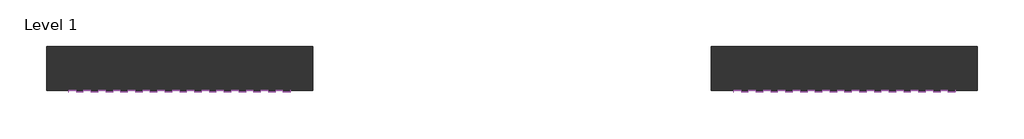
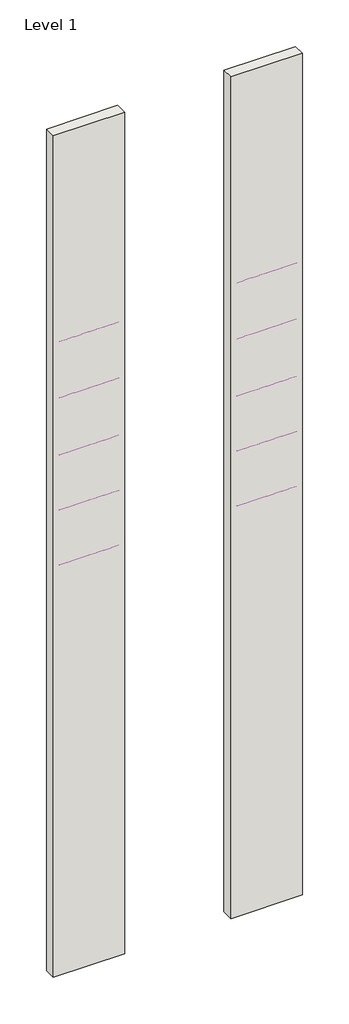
# One storey: 10 coverings, 2 walls.
"""IFC4 building model written with IfcOpenShell, lengths in millimetres."""

from ifc_helpers import new_model, si_unit, point, frame, frame_2d, origin, origin_with_axes, place, context, project, spatial, polyline, circle_curve, trimmed, segment, composite_curve, outline, extrude, element, save

model = new_model("IFC4")

# Units and contexts
model_context = context("Model", 3, world=origin())
ifc_project = project(units=[si_unit("LENGTHUNIT", "METRE", prefix="MILLI")], contexts=[model_context])

# Site, building, storey
site = spatial("IfcSite", under=ifc_project)
building = spatial("IfcBuilding", under=site)
storey = spatial("IfcBuildingStorey", under=building, Name="Level 1", Elevation=0.0)

# Coverings
placement = place(None, origin())
element("IfcCovering", 1, ObjectType="REVIGRES-GRIGIO_DAMASCO-RB-8x118.6-MATT_RECT", at=placement, inside=storey, context=model_context, shape_type="SweptSolid", body=[
    extrude(outline(composite_curve([segment(polyline([(-6950.5935684, 7320.0), (-6960.3935684, 7320.0), (-6960.3935684, 7390.2)]), True, "CONTINUOUS"), segment(trimmed(circle_curve(frame_2d((-6950.5935684, 7390.2)), 9.8), [point((-6960.3935684, 7390.2))], [point((-6950.5935684, 7400.0))], False, "CARTESIAN"), True, "CONTINUOUS"), segment(polyline([(-6950.5935684, 7400.0), (-6950.5935684, 7320.0)]), True, "CONTINUOUS")], self_intersect=False)), frame((6101.8218627, 0.0, 0.0), z_axis=(1.0, 0.0, 0.0), x_axis=(0.0, 1.0, 0.0)), (0.0, 0.0, 1.0), 1000.0),
])
element("IfcCovering", 2, ObjectType="REVIGRES-GRIGIO_DAMASCO-RB-8x59.2-POL", at=placement, inside=storey, context=model_context, shape_type="SweptSolid", body=[
    extrude(outline(composite_curve([segment(polyline([(-6950.5935684, 9280.0), (-6958.5935684, 9280.0), (-6958.5935684, 9352.0)]), True, "CONTINUOUS"), segment(trimmed(circle_curve(frame_2d((-6950.5935684, 9352.0)), 8.0), [point((-6958.5935684, 9352.0))], [point((-6950.5935684, 9360.0))], False, "CARTESIAN"), True, "CONTINUOUS"), segment(polyline([(-6950.5935684, 9360.0), (-6950.5935684, 9280.0)]), True, "CONTINUOUS")], self_intersect=False)), frame((9101.8218627, 0.0, 0.0), z_axis=(1.0, 0.0, 0.0), x_axis=(0.0, 1.0, 0.0)), (0.0, 0.0, 1.0), 1000.0),
])
element("IfcCovering", 3, ObjectType="REVIGRES-GRIGIO_DAMASCO-RB-8x59.2-MATT_RECT", at=placement, inside=storey, context=model_context, shape_type="SweptSolid", body=[
    extrude(outline(composite_curve([segment(polyline([(-6950.5935684, 9280.0), (-6959.0935684, 9280.0), (-6959.0935684, 9351.5)]), True, "CONTINUOUS"), segment(trimmed(circle_curve(frame_2d((-6950.5935684, 9351.5)), 8.5), [point((-6959.0935684, 9351.5))], [point((-6950.5935684, 9360.0))], False, "CARTESIAN"), True, "CONTINUOUS"), segment(polyline([(-6950.5935684, 9360.0), (-6950.5935684, 9280.0)]), True, "CONTINUOUS")], self_intersect=False)), frame((6101.8218627, 0.0, 0.0), z_axis=(1.0, 0.0, 0.0), x_axis=(0.0, 1.0, 0.0)), (0.0, 0.0, 1.0), 1000.0),
])
element("IfcCovering", 4, ObjectType="REVIGRES-GRIGIO_DAMASCO-RB-9.5x29.5-POL", at=placement, inside=storey, context=model_context, shape_type="SweptSolid", body=[
    extrude(outline(composite_curve([segment(polyline([(-6950.5935684, 11300.0), (-6958.5935684, 11300.0), (-6958.5935684, 11387.0)]), True, "CONTINUOUS"), segment(trimmed(circle_curve(frame_2d((-6950.5935684, 11387.0)), 8.0), [point((-6958.5935684, 11387.0))], [point((-6950.5935684, 11395.0))], False, "CARTESIAN"), True, "CONTINUOUS"), segment(polyline([(-6950.5935684, 11395.0), (-6950.5935684, 11300.0)]), True, "CONTINUOUS")], self_intersect=False)), frame((9101.8218627, 0.0, 0.0), z_axis=(1.0, 0.0, 0.0), x_axis=(0.0, 1.0, 0.0)), (0.0, 0.0, 1.0), 1000.0),
])
element("IfcCovering", 5, ObjectType="REVIGRES-GRIGIO_DAMASCO-RB-8x118.6-POL", at=placement, inside=storey, context=model_context, shape_type="SweptSolid", body=[
    extrude(outline(composite_curve([segment(polyline([(-6950.5935684, 7320.0), (-6959.8935684, 7320.0), (-6959.8935684, 7390.7)]), True, "CONTINUOUS"), segment(trimmed(circle_curve(frame_2d((-6950.5935684, 7390.7)), 9.3), [point((-6959.8935684, 7390.7))], [point((-6950.5935684, 7400.0))], False, "CARTESIAN"), True, "CONTINUOUS"), segment(polyline([(-6950.5935684, 7400.0), (-6950.5935684, 7320.0)]), True, "CONTINUOUS")], self_intersect=False)), frame((9101.8218627, 0.0, 0.0), z_axis=(1.0, 0.0, 0.0), x_axis=(0.0, 1.0, 0.0)), (0.0, 0.0, 1.0), 1000.0),
])
element("IfcCovering", 6, ObjectType="REVIGRES-GRIGIO_DAMASCO-RB-8x44.35-MATT_RECT", at=placement, inside=storey, context=model_context, shape_type="SweptSolid", body=[
    extrude(outline(composite_curve([segment(polyline([(-6950.5935684, 10300.0), (-6958.7935684, 10300.0), (-6958.7935684, 10371.8)]), True, "CONTINUOUS"), segment(trimmed(circle_curve(frame_2d((-6950.5935684, 10371.8)), 8.2), [point((-6958.7935684, 10371.8))], [point((-6950.5935684, 10380.0))], False, "CARTESIAN"), True, "CONTINUOUS"), segment(polyline([(-6950.5935684, 10380.0), (-6950.5935684, 10300.0)]), True, "CONTINUOUS")], self_intersect=False)), frame((6101.8218627, 0.0, 0.0), z_axis=(1.0, 0.0, 0.0), x_axis=(0.0, 1.0, 0.0)), (0.0, 0.0, 1.0), 1000.0),
])
element("IfcCovering", 7, ObjectType="REVIGRES-GRIGIO_DAMASCO-RB-8x88.9-POL", at=placement, inside=storey, context=model_context, shape_type="SweptSolid", body=[
    extrude(outline(composite_curve([segment(polyline([(-6950.5935684, 8300.0), (-6960.3935684, 8300.0), (-6960.3935684, 8370.2)]), True, "CONTINUOUS"), segment(trimmed(circle_curve(frame_2d((-6950.5935684, 8370.2)), 9.8), [point((-6960.3935684, 8370.2))], [point((-6950.5935684, 8380.0))], False, "CARTESIAN"), True, "CONTINUOUS"), segment(polyline([(-6950.5935684, 8380.0), (-6950.5935684, 8300.0)]), True, "CONTINUOUS")], self_intersect=False)), frame((9101.8218627, 0.0, 0.0), z_axis=(1.0, 0.0, 0.0), x_axis=(0.0, 1.0, 0.0)), (0.0, 0.0, 1.0), 1000.0),
])
element("IfcCovering", 8, ObjectType="REVIGRES-GRIGIO_DAMASCO-RB-9.5x29.5-MATTRECT", at=placement, inside=storey, context=model_context, shape_type="SweptSolid", body=[
    extrude(outline(composite_curve([segment(polyline([(-6950.5935684, 11300.0), (-6959.0935684, 11300.0), (-6959.0935684, 11386.5)]), True, "CONTINUOUS"), segment(trimmed(circle_curve(frame_2d((-6950.5935684, 11386.5)), 8.5), [point((-6959.0935684, 11386.5))], [point((-6950.5935684, 11395.0))], False, "CARTESIAN"), True, "CONTINUOUS"), segment(polyline([(-6950.5935684, 11395.0), (-6950.5935684, 11300.0)]), True, "CONTINUOUS")], self_intersect=False)), frame((6101.8218627, 0.0, 0.0), z_axis=(1.0, 0.0, 0.0), x_axis=(0.0, 1.0, 0.0)), (0.0, 0.0, 1.0), 1000.0),
])
element("IfcCovering", 9, ObjectType="REVIGRES-GRIGIO_DAMASCO-RB-8x88.9-MATT_RECT", at=placement, inside=storey, context=model_context, shape_type="SweptSolid", body=[
    extrude(outline(composite_curve([segment(polyline([(-6950.5935684, 8300.0), (-6961.0935684, 8300.0), (-6961.0935684, 8369.5)]), True, "CONTINUOUS"), segment(trimmed(circle_curve(frame_2d((-6950.5935684, 8369.5)), 10.5), [point((-6961.0935684, 8369.5))], [point((-6950.5935684, 8380.0))], False, "CARTESIAN"), True, "CONTINUOUS"), segment(polyline([(-6950.5935684, 8380.0), (-6950.5935684, 8300.0)]), True, "CONTINUOUS")], self_intersect=False)), frame((6101.8218627, 0.0, 0.0), z_axis=(1.0, 0.0, 0.0), x_axis=(0.0, 1.0, 0.0)), (0.0, 0.0, 1.0), 1000.0),
])
element("IfcCovering", 10, ObjectType="REVIGRES-GRIGIO_DAMASCO-RB-8x44.35-POL", at=placement, inside=storey, context=model_context, shape_type="SweptSolid", body=[
    extrude(outline(composite_curve([segment(polyline([(-6950.5935684, 10300.0), (-6958.2935684, 10300.0), (-6958.2935684, 10372.3)]), True, "CONTINUOUS"), segment(trimmed(circle_curve(frame_2d((-6950.5935684, 10372.3)), 7.7), [point((-6958.2935684, 10372.3))], [point((-6950.5935684, 10380.0))], False, "CARTESIAN"), True, "CONTINUOUS"), segment(polyline([(-6950.5935684, 10380.0), (-6950.5935684, 10300.0)]), True, "CONTINUOUS")], self_intersect=False)), frame((9101.8218627, 0.0, 0.0), z_axis=(1.0, 0.0, 0.0), x_axis=(0.0, 1.0, 0.0)), (0.0, 0.0, 1.0), 1000.0),
])

# Walls
element("IfcWall", 11, ObjectType="Wall 1", at=placement, inside=storey, context=model_context, shape_type="SweptSolid", body=[
    extrude(outline(polyline([(7201.8218627, -6950.5935684), (6001.8218627, -6950.5935684), (6001.8218627, -6750.5935684), (7201.8218627, -6750.5935684), (7201.8218627, -6950.5935684)])), origin_with_axes(), (0.0, 0.0, 1.0), 15000.0),
])
element("IfcWall", 12, ObjectType="Wall 1", at=placement, inside=storey, context=model_context, shape_type="SweptSolid", body=[
    extrude(outline(polyline([(10201.8218627, -6950.5935684), (9001.8218627, -6950.5935684), (9001.8218627, -6750.5935684), (10201.8218627, -6750.5935684), (10201.8218627, -6950.5935684)])), origin_with_axes(), (0.0, 0.0, 1.0), 15000.0),
])

save(model, "model.ifc")
